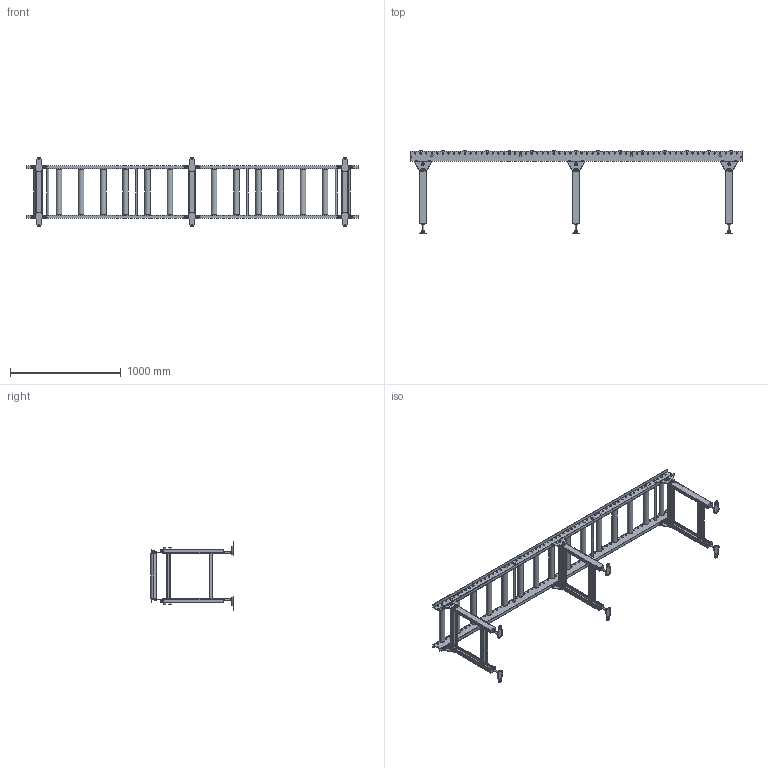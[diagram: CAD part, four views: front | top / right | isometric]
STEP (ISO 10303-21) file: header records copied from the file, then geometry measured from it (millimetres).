
FILE_DESCRIPTION (( 'STEP AP214' ), '1' );
FILE_NAME ('MR-5016-400-200-3000.STEP', '2024-03-19T08:57:02', ( '' ), ( '' ), 'SwSTEP 2.0', 'SolidWorks 2017', '' );
FILE_SCHEMA (( 'AUTOMOTIVE_DESIGN' ));
Length unit declared in the file: millimetre
Products named in the file (1): MR-5016-400-200-3000
Bounding box: 2994 x 746.9 x 629 mm (x, y, z)
Volume: 17398344 mm3; surface area: 4755139.9 mm2
Topology: 16 solids, 16 shells, 2222 faces, 5598 edges, 3604 vertices
Faces by surface type: plane 1398, cylinder 800, cone 12, bspline 12
Entity records: 68993 total; most frequent: CARTESIAN_POINT 13099, DIRECTION 11938, ORIENTED_EDGE 11196, EDGE_CURVE 5598, AXIS2_PLACEMENT_3D 4183, VERTEX_POINT 3604, LINE 3572, VECTOR 3572
